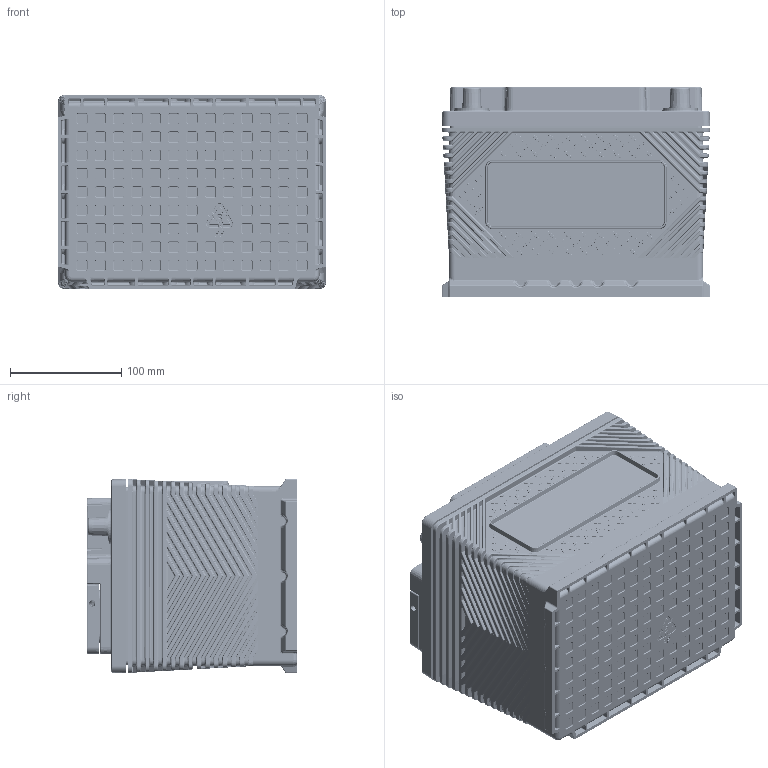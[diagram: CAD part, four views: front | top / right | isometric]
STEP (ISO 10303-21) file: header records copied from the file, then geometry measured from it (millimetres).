
FILE_DESCRIPTION (( 'STEP AP203' ), '1' );
FILE_NAME ('ODP-AGM47.STEP', '2024-02-26T20:14:24', ( '' ), ( '' ), 'SwSTEP 2.0', 'SolidWorks 2022', '' );
FILE_SCHEMA (( 'CONFIG_CONTROL_DESIGN' ));
Products named in the file (1): ODP-AGM47
Bounding box: 241.4 x 189.56 x 174.65 mm (x, y, z)
Volume: 1407586.6 mm3; surface area: 888200.6 mm2
Topology: 10 solids, 10 shells, 12332 faces, 29028 edges, 16651 vertices
Faces by surface type: cylinder 4454, plane 2592, bspline 2138, torus 1667, sphere 774, cone 707
Full cylindrical faces by diameter (mm): 14.935 x2, 16.076 x2, 17.983 x2, 18.059 x6, 18.542 x8, 21.031 x2, 21.336 x8, 25.4 x2
Entity records: 401265 total; most frequent: CARTESIAN_POINT 136607, ORIENTED_EDGE 56750, DIRECTION 55478, EDGE_CURVE 28375, AXIS2_PLACEMENT_3D 21943, VERTEX_POINT 16548, EDGE_LOOP 12847, FACE_OUTER_BOUND 12408
